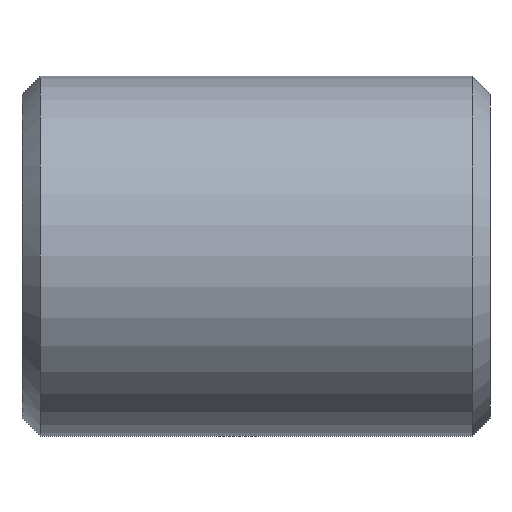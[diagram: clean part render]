
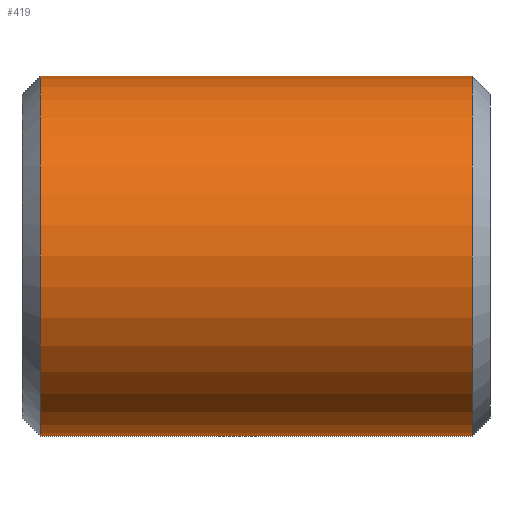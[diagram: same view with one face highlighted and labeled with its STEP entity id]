
A CAD part, front view. The second image highlights one B-rep face of the part: STEP entity #419.
In plain terms, the highlighted cylindrical face has radius 10 mm (diameter 20 mm), a partial arc.
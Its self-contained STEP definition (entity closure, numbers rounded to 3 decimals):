
#231=CARTESIAN_POINT('Vertex',(1.,0.,-10.)) ;
#238=CARTESIAN_POINT('Vertex',(1.,0.,10.)) ;
#267=CARTESIAN_POINT('Axis2P3D Location',(1.,0.,0.)) ;
#271=CARTESIAN_POINT('Vertex',(1.,-10.,0.)) ;
#274=CARTESIAN_POINT('Axis2P3D Location',(1.,0.,0.)) ;
#359=CARTESIAN_POINT('Line Origine',(26.,0.,10.)) ;
#363=CARTESIAN_POINT('Vertex',(25.,0.,10.)) ;
#377=CARTESIAN_POINT('Vertex',(25.,0.,-10.)) ;
#380=CARTESIAN_POINT('Line Origine',(26.,0.,-10.)) ;
#394=CARTESIAN_POINT('Axis2P3D Location',(26.,0.,0.)) ;
#399=CARTESIAN_POINT('Axis2P3D Location',(25.,0.,0.)) ;
#403=CARTESIAN_POINT('Vertex',(25.,-10.,0.)) ;
#406=CARTESIAN_POINT('Axis2P3D Location',(25.,0.,0.)) ;
#268=DIRECTION('Axis2P3D Direction',(1.,0.,-0.)) ;
#275=DIRECTION('Axis2P3D Direction',(1.,0.,-0.)) ;
#360=DIRECTION('Vector Direction',(-1.,0.,0.)) ;
#381=DIRECTION('Vector Direction',(-1.,0.,0.)) ;
#395=DIRECTION('Axis2P3D Direction',(-1.,-0.,-0.)) ;
#396=DIRECTION('Axis2P3D XDirection',(0.,0.,-1.)) ;
#400=DIRECTION('Axis2P3D Direction',(-1.,-0.,-0.)) ;
#407=DIRECTION('Axis2P3D Direction',(-1.,-0.,-0.)) ;
#269=AXIS2_PLACEMENT_3D('Circle Axis2P3D',#267,#268,$) ;
#276=AXIS2_PLACEMENT_3D('Circle Axis2P3D',#274,#275,$) ;
#397=AXIS2_PLACEMENT_3D('Cylinder Axis2P3D',#394,#395,#396) ;
#401=AXIS2_PLACEMENT_3D('Circle Axis2P3D',#399,#400,$) ;
#408=AXIS2_PLACEMENT_3D('Circle Axis2P3D',#406,#407,$) ;
#412=ORIENTED_EDGE('',*,*,#384,.T.) ;
#413=ORIENTED_EDGE('',*,*,#405,.F.) ;
#414=ORIENTED_EDGE('',*,*,#410,.F.) ;
#415=ORIENTED_EDGE('',*,*,#365,.T.) ;
#416=ORIENTED_EDGE('',*,*,#278,.T.) ;
#417=ORIENTED_EDGE('',*,*,#273,.T.) ;
#361=VECTOR('Line Direction',#360,1.) ;
#382=VECTOR('Line Direction',#381,1.) ;
#419=ADVANCED_FACE('352-14X26',(#418),#398,.T.) ;
#270=CIRCLE('generated circle',#269,10.) ;
#277=CIRCLE('generated circle',#276,10.) ;
#402=CIRCLE('generated circle',#401,10.) ;
#409=CIRCLE('generated circle',#408,10.) ;
#398=CYLINDRICAL_SURFACE('generated cylinder',#397,10.) ;
#273=EDGE_CURVE('',#272,#232,#270,.T.) ;
#278=EDGE_CURVE('',#239,#272,#277,.T.) ;
#365=EDGE_CURVE('',#364,#239,#362,.T.) ;
#384=EDGE_CURVE('',#232,#378,#383,.F.) ;
#405=EDGE_CURVE('',#404,#378,#402,.F.) ;
#410=EDGE_CURVE('',#364,#404,#409,.F.) ;
#411=EDGE_LOOP('',(#412,#413,#414,#415,#416,#417)) ;
#418=FACE_OUTER_BOUND('',#411,.T.) ;
#362=LINE('Line',#359,#361) ;
#383=LINE('Line',#380,#382) ;
#232=VERTEX_POINT('',#231) ;
#239=VERTEX_POINT('',#238) ;
#272=VERTEX_POINT('',#271) ;
#364=VERTEX_POINT('',#363) ;
#378=VERTEX_POINT('',#377) ;
#404=VERTEX_POINT('',#403) ;
